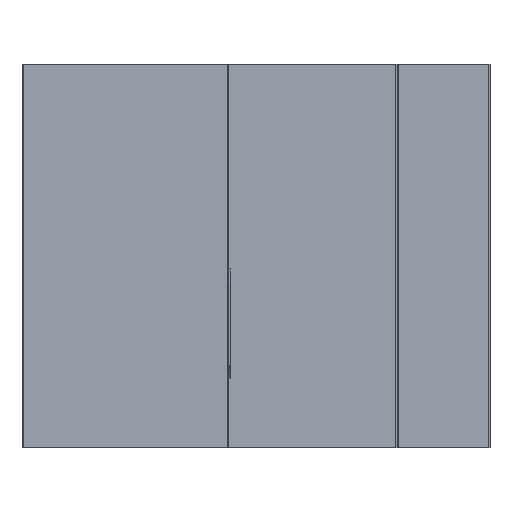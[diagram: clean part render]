
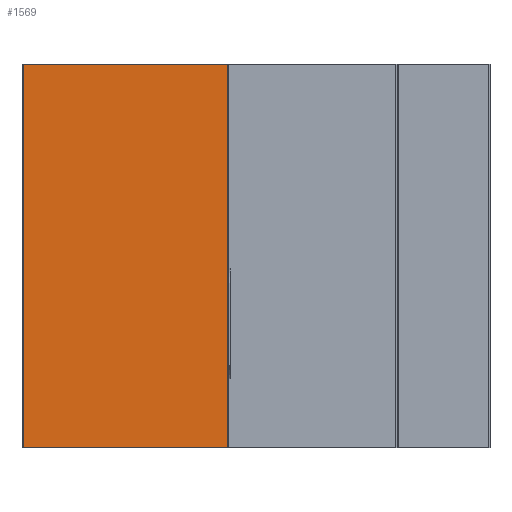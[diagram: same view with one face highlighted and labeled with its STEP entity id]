
A CAD part, front view. The second image highlights one B-rep face of the part: STEP entity #1569.
In plain terms, the highlighted planar face has unit normal (0, -1, 0).
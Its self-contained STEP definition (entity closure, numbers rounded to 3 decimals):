
#643 = VERTEX_POINT( '', #1803 );
#667 = EDGE_CURVE( '', #1675, #1457, #1830, .T. );
#793 = EDGE_CURVE( '', #1675, #887, #1970, .T. );
#873 = EDGE_CURVE( '', #1457, #643, #2058, .T. );
#887 = VERTEX_POINT( '', #2072 );
#1457 = VERTEX_POINT( '', #2709 );
#1489 = EDGE_CURVE( '', #887, #643, #2743, .T. );
#1569 = ADVANCED_FACE( '', ( #2837 ), #2838, .T. );
#1675 = VERTEX_POINT( '', #2959 );
#1803 = CARTESIAN_POINT( '', ( -7.6, 0., -34. ) );
#1830 = LINE( '', #3139, #3140 );
#1970 = LINE( '', #3320, #3321 );
#2058 = LINE( '', #3436, #3437 );
#2072 = CARTESIAN_POINT( '', ( -25.7, 0., -34. ) );
#2709 = CARTESIAN_POINT( '', ( -7.6, 0., 0. ) );
#2743 = LINE( '', #4376, #4377 );
#2837 = FACE_OUTER_BOUND( '', #4503, .T. );
#2838 = PLANE( '', #4504 );
#2959 = CARTESIAN_POINT( '', ( -25.7, 0., 0. ) );
#3139 = CARTESIAN_POINT( '', ( -25.7, 0., 0. ) );
#3140 = VECTOR( '', #4855, 1. );
#3320 = CARTESIAN_POINT( '', ( -25.7, 0., 0. ) );
#3321 = VECTOR( '', #5010, 1. );
#3436 = CARTESIAN_POINT( '', ( -7.6, 0., 0. ) );
#3437 = VECTOR( '', #5110, 1. );
#4376 = CARTESIAN_POINT( '', ( -25.7, 0., -34. ) );
#4377 = VECTOR( '', #5860, 1. );
#4503 = EDGE_LOOP( '', ( #5978, #5979, #5980, #5981 ) );
#4504 = AXIS2_PLACEMENT_3D( '', #5982, #5983, #5984 );
#4855 = DIRECTION( '', ( 1., 0., 0. ) );
#5010 = DIRECTION( '', ( 0., 0., -1. ) );
#5110 = DIRECTION( '', ( 0., 0., -1. ) );
#5860 = DIRECTION( '', ( 1., 0., 0. ) );
#5978 = ORIENTED_EDGE( '', *, *, #1489, .T. );
#5979 = ORIENTED_EDGE( '', *, *, #873, .F. );
#5980 = ORIENTED_EDGE( '', *, *, #667, .F. );
#5981 = ORIENTED_EDGE( '', *, *, #793, .T. );
#5982 = CARTESIAN_POINT( '', ( -25.7, 0., 0. ) );
#5983 = DIRECTION( '', ( 0., -1., 0. ) );
#5984 = DIRECTION( '', ( -1., 0., 0. ) );
